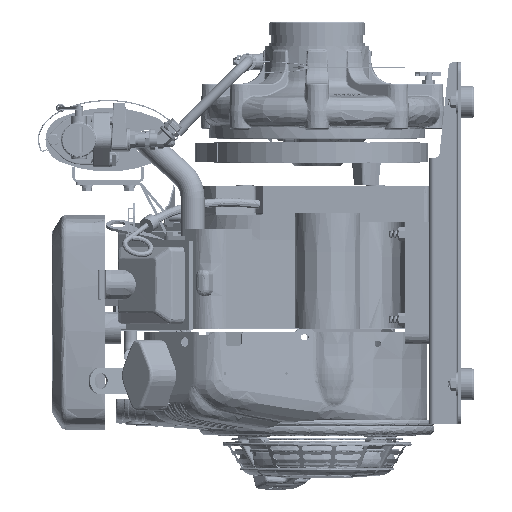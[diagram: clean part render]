
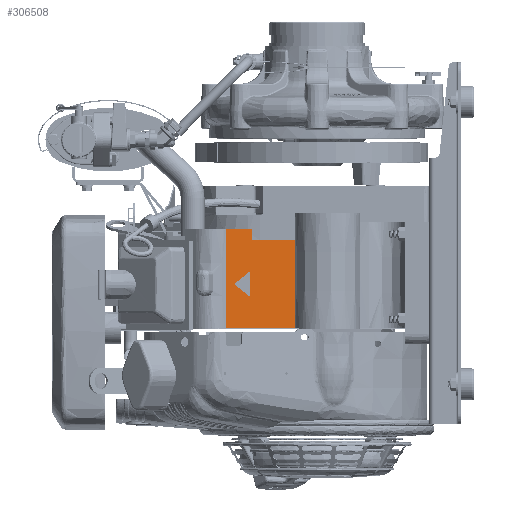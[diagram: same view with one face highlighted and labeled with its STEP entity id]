
A CAD part, left-side view. The second image highlights one B-rep face of the part: STEP entity #306508.
In plain terms, the highlighted planar face has unit normal (0.707, 0.707, 0).
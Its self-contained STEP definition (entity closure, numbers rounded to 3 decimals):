
#32441 = VERTEX_POINT ( 'NONE', #295192 ) ;
#41986 = ORIENTED_EDGE ( 'NONE', *, *, #304180, .F. ) ;
#47024 = VERTEX_POINT ( 'NONE', #410818 ) ;
#59741 = B_SPLINE_CURVE_WITH_KNOTS ( 'NONE', 3,
 ( #378716, #468875, #508866, #270893 ),
 .UNSPECIFIED., .F., .F.,
 ( 4, 4 ),
 ( 0., 1. ),
 .UNSPECIFIED. ) ;
#78804 = LINE ( 'NONE', #398360, #184749 ) ;
#80134 = EDGE_CURVE ( 'NONE', #266322, #47024, #78804, .T. ) ;
#86448 = DIRECTION ( 'NONE',  ( 0.707, -0.707, 0. ) ) ;
#88711 = CARTESIAN_POINT ( 'NONE',  ( -189.246, 279.845, -101.142 ) ) ;
#92868 = VECTOR ( 'NONE', #215781, 1000. ) ;
#95736 = CARTESIAN_POINT ( 'NONE',  ( -142.829, 233.428, 16.435 ) ) ;
#105405 = LINE ( 'NONE', #95736, #92868 ) ;
#105541 = CARTESIAN_POINT ( 'NONE',  ( -158.246, 248.845, 16.435 ) ) ;
#123263 = CARTESIAN_POINT ( 'NONE',  ( -158.246, 248.845, 3.735 ) ) ;
#125895 = LINE ( 'NONE', #328377, #219436 ) ;
#126390 = ORIENTED_EDGE ( 'NONE', *, *, #352599, .T. ) ;
#140011 = CARTESIAN_POINT ( 'NONE',  ( -191.102, 281.701, -103.493 ) ) ;
#167981 = CARTESIAN_POINT ( 'NONE',  ( -96.412, 187.011, -101.142 ) ) ;
#180044 = DIRECTION ( 'NONE',  ( 0.707, -0.707, 0. ) ) ;
#181134 = VERTEX_POINT ( 'NONE', #228489 ) ;
#184749 = VECTOR ( 'NONE', #478223, 1000. ) ;
#208759 = EDGE_CURVE ( 'NONE', #392058, #266322, #464129, .T. ) ;
#210365 = DIRECTION ( 'NONE',  ( 0., 0., -1. ) ) ;
#215781 = DIRECTION ( 'NONE',  ( 0.707, -0.707, 0. ) ) ;
#218820 = AXIS2_PLACEMENT_3D ( 'NONE', #140011, #418156, #180044 ) ;
#219436 = VECTOR ( 'NONE', #210365, 1000. ) ;
#228489 = CARTESIAN_POINT ( 'NONE',  ( -189.246, 279.845, 16.435 ) ) ;
#235810 = EDGE_LOOP ( 'NONE', ( #514272, #355169, #41986, #464045, #126390, #403674 ) ) ;
#266322 = VERTEX_POINT ( 'NONE', #433684 ) ;
#270893 = CARTESIAN_POINT ( 'NONE',  ( -189.246, 279.845, -101.142 ) ) ;
#276044 = FACE_OUTER_BOUND ( 'NONE', #235810, .T. ) ;
#284706 = CARTESIAN_POINT ( 'NONE',  ( -142.829, 233.428, 3.735 ) ) ;
#295192 = CARTESIAN_POINT ( 'NONE',  ( -189.246, 279.845, -101.142 ) ) ;
#304180 = EDGE_CURVE ( 'NONE', #181134, #32441, #59741, .T. ) ;
#306508 = ADVANCED_FACE ( 'NONE', ( #276044 ), #456316, .F. ) ;
#326118 = CARTESIAN_POINT ( 'NONE',  ( -158.301, 248.9, -101.142 ) ) ;
#328377 = CARTESIAN_POINT ( 'NONE',  ( -158.246, 248.845, -42.353 ) ) ;
#352599 = EDGE_CURVE ( 'NONE', #457401, #392058, #125895, .T. ) ;
#355169 = ORIENTED_EDGE ( 'NONE', *, *, #452486, .F. ) ;
#358244 = VECTOR ( 'NONE', #86448, 1000. ) ;
#378716 = CARTESIAN_POINT ( 'NONE',  ( -189.246, 279.845, 16.435 ) ) ;
#390037 = EDGE_CURVE ( 'NONE', #181134, #457401, #105405, .T. ) ;
#392058 = VERTEX_POINT ( 'NONE', #123263 ) ;
#398360 = CARTESIAN_POINT ( 'NONE',  ( -96.412, 187.011, -42.353 ) ) ;
#403674 = ORIENTED_EDGE ( 'NONE', *, *, #208759, .T. ) ;
#406195 = CARTESIAN_POINT ( 'NONE',  ( -127.357, 217.956, -101.142 ) ) ;
#410818 = CARTESIAN_POINT ( 'NONE',  ( -96.412, 187.011, -101.142 ) ) ;
#418156 = DIRECTION ( 'NONE',  ( -0.707, -0.707, 0. ) ) ;
#433684 = CARTESIAN_POINT ( 'NONE',  ( -96.412, 187.011, 3.735 ) ) ;
#452486 = EDGE_CURVE ( 'NONE', #32441, #47024, #512700, .T. ) ;
#456316 = PLANE ( 'NONE',  #218820 ) ;
#457401 = VERTEX_POINT ( 'NONE', #105541 ) ;
#464045 = ORIENTED_EDGE ( 'NONE', *, *, #390037, .T. ) ;
#464129 = LINE ( 'NONE', #284706, #358244 ) ;
#468875 = CARTESIAN_POINT ( 'NONE',  ( -189.245, 279.845, -22.757 ) ) ;
#478223 = DIRECTION ( 'NONE',  ( 0., 0., -1. ) ) ;
#508866 = CARTESIAN_POINT ( 'NONE',  ( -189.245, 279.845, -61.949 ) ) ;
#512700 = B_SPLINE_CURVE_WITH_KNOTS ( 'NONE', 3,
 ( #88711, #326118, #406195, #167981 ),
 .UNSPECIFIED., .F., .F.,
 ( 4, 4 ),
 ( 0., 1. ),
 .UNSPECIFIED. ) ;
#514272 = ORIENTED_EDGE ( 'NONE', *, *, #80134, .T. ) ;
